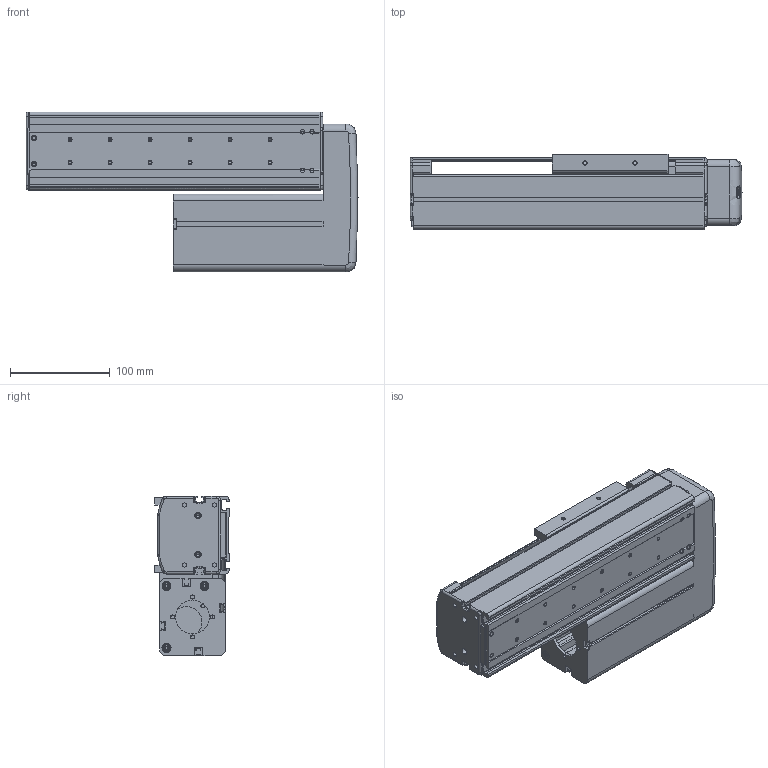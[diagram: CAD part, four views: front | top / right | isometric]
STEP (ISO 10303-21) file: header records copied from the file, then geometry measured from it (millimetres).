
FILE_DESCRIPTION((''),'2;1');
FILE_NAME('BE10E-UL-M_N-10_IGS_PRT','2017-06-17T',(' '),(''),'PRO/ENGINEER BY PARAMETRIC TECHNOLOGY CORPORATION, 2015030','PRO/ENGINEER BY PARAMETRIC TECHNOLOGY CORPORATION, 2015030','');
FILE_SCHEMA(('CONFIG_CONTROL_DESIGN'));
Length unit declared in the file: millimetre
Products named in the file (1): BE10E-UL-M_N-10_IGS_PRT
Bounding box: 332 x 75 x 160 mm (x, y, z)
Volume: 772346.7 mm3; surface area: 504765.3 mm2
Topology: 2 solids, 86 shells, 1673 faces, 4498 edges, 2899 vertices
Faces by surface type: cylinder 757, plane 688, cone 81, torus 71, sphere 44, bspline 32
Entity records: 54445 total; most frequent: CARTESIAN_POINT 11503, DIRECTION 9314, ORIENTED_EDGE 8608, EDGE_CURVE 4464, AXIS2_PLACEMENT_3D 3436, VERTEX_POINT 2899, VECTOR 2442, LINE 2442
